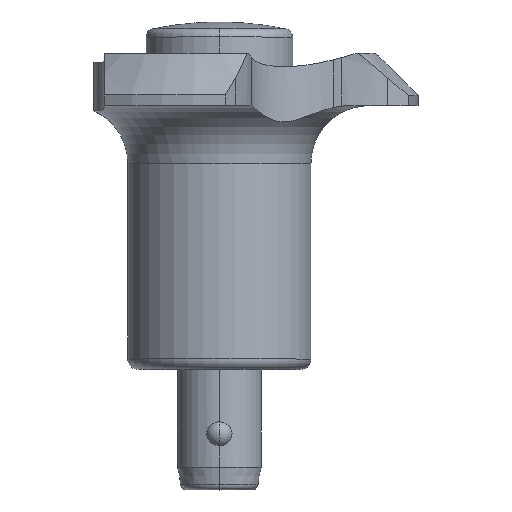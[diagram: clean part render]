
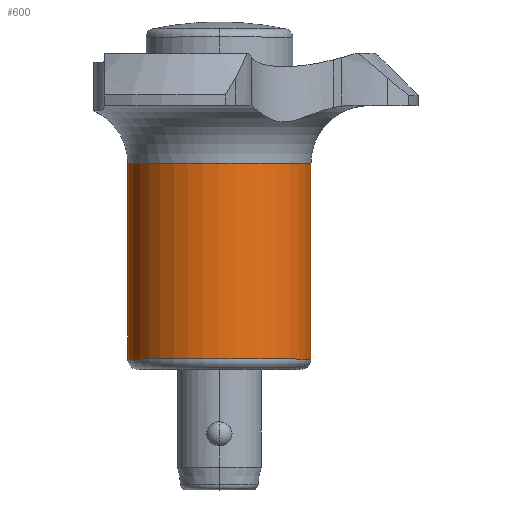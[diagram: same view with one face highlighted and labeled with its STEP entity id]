
A CAD part, top view. The second image highlights one B-rep face of the part: STEP entity #600.
In plain terms, the highlighted cylindrical face has radius 8.75 mm (diameter 17.5 mm), a partial arc.
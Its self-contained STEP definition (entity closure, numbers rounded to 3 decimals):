
#24 = DIRECTION ( 'NONE',  ( 0., 1., 0. ) ) ;
#77 = CARTESIAN_POINT ( 'NONE',  ( -8.75, 1., 0. ) ) ;
#157 = ORIENTED_EDGE ( 'NONE', *, *, #2740, .T. ) ;
#226 = ORIENTED_EDGE ( 'NONE', *, *, #2623, .F. ) ;
#283 = AXIS2_PLACEMENT_3D ( 'NONE', #1720, #24, #522 ) ;
#290 = CARTESIAN_POINT ( 'NONE',  ( 8.75, 30.2, 0. ) ) ;
#314 = LINE ( 'NONE', #290, #2770 ) ;
#329 = CIRCLE ( 'NONE', #606, 8.75 ) ;
#443 = CARTESIAN_POINT ( 'NONE',  ( -8.75, 30.2, 0. ) ) ;
#455 = EDGE_CURVE ( 'NONE', #1677, #2213, #329, .T. ) ;
#459 = DIRECTION ( 'NONE',  ( 0., 1., 0. ) ) ;
#522 = DIRECTION ( 'NONE',  ( -1., 0., 0. ) ) ;
#587 = EDGE_LOOP ( 'NONE', ( #2218, #157, #2268, #226 ) ) ;
#590 = CARTESIAN_POINT ( 'NONE',  ( 0., 30.2, 0. ) ) ;
#600 = ADVANCED_FACE ( 'NONE', ( #1053 ), #631, .T. ) ;
#606 = AXIS2_PLACEMENT_3D ( 'NONE', #855, #1708, #2571 ) ;
#631 = CYLINDRICAL_SURFACE ( 'NONE', #2182, 8.75 ) ;
#848 = VERTEX_POINT ( 'NONE', #1598 ) ;
#855 = CARTESIAN_POINT ( 'NONE',  ( 0., 1., 0. ) ) ;
#909 = CARTESIAN_POINT ( 'NONE',  ( 8.75, 1., 0. ) ) ;
#1030 = DIRECTION ( 'NONE',  ( 0., 1., 0. ) ) ;
#1053 = FACE_OUTER_BOUND ( 'NONE', #587, .T. ) ;
#1181 = DIRECTION ( 'NONE',  ( 0., 1., 0. ) ) ;
#1317 = CARTESIAN_POINT ( 'NONE',  ( 8.75, 19.7, 0. ) ) ;
#1507 = LINE ( 'NONE', #443, #1735 ) ;
#1551 = CIRCLE ( 'NONE', #283, 8.75 ) ;
#1598 = CARTESIAN_POINT ( 'NONE',  ( -8.75, 19.7, 0. ) ) ;
#1677 = VERTEX_POINT ( 'NONE', #77 ) ;
#1708 = DIRECTION ( 'NONE',  ( 0., 1., 0. ) ) ;
#1720 = CARTESIAN_POINT ( 'NONE',  ( 0., 19.7, 0. ) ) ;
#1735 = VECTOR ( 'NONE', #459, 1000. ) ;
#1902 = DIRECTION ( 'NONE',  ( -1., 0., 0. ) ) ;
#2182 = AXIS2_PLACEMENT_3D ( 'NONE', #590, #1030, #1902 ) ;
#2213 = VERTEX_POINT ( 'NONE', #909 ) ;
#2218 = ORIENTED_EDGE ( 'NONE', *, *, #455, .T. ) ;
#2268 = ORIENTED_EDGE ( 'NONE', *, *, #2676, .F. ) ;
#2571 = DIRECTION ( 'NONE',  ( 1., 0., 0. ) ) ;
#2623 = EDGE_CURVE ( 'NONE', #1677, #848, #1507, .T. ) ;
#2629 = VERTEX_POINT ( 'NONE', #1317 ) ;
#2676 = EDGE_CURVE ( 'NONE', #848, #2629, #1551, .T. ) ;
#2740 = EDGE_CURVE ( 'NONE', #2213, #2629, #314, .T. ) ;
#2770 = VECTOR ( 'NONE', #1181, 1000. ) ;
